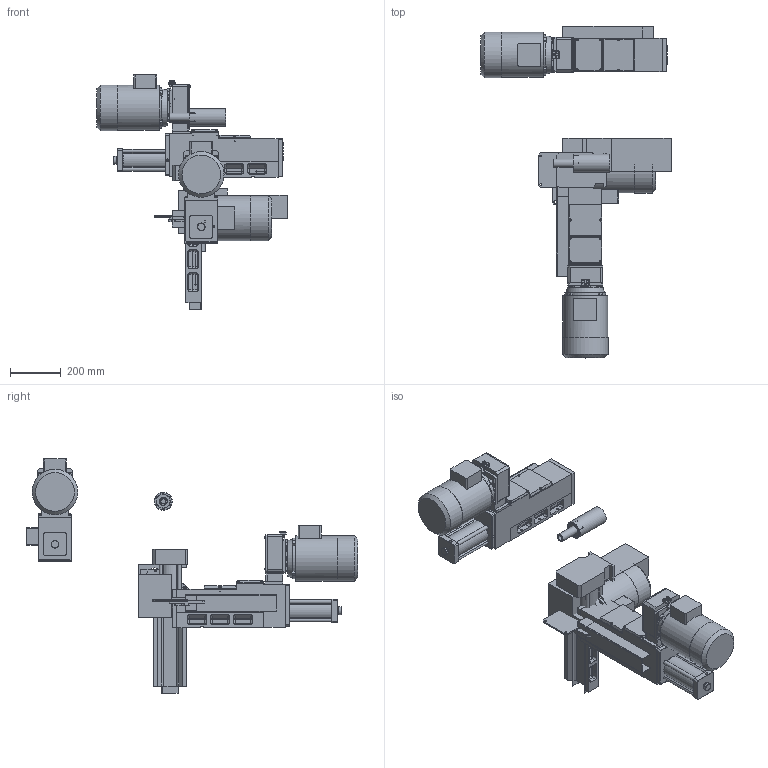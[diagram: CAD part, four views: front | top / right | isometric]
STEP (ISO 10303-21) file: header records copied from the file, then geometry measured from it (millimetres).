
FILE_DESCRIPTION( ( 'STEP AP203' ), '1' );
FILE_NAME( 'C:/Documents and Settings/Saverio/Desktop/disegni ironcad/unità serie 2/F218 (ex F222)/F 218_A05_P.stp', '2013-12-10T17:19:23', ( ' ' ), ( ' ' ), 'XStep 1.0', ' ', ' ' );
FILE_SCHEMA( ( 'CONFIG_CONTROL_DESIGN' ) );
Length unit declared in the file: metre
Products named in the file (40): Assem1; Assem2; Assem3; 1; 2; 3; 4; 5; 6; 7; 8; 9; 10; 11; 12; 13; 14; 15; 16; 17; 18; 19; 20; 21; 22; 23; 24; 25; 26; 27; 28; 29; 30; 31; 32; 33; 34; 35; 36; 37
Bounding box: 746.57 x 1302.73 x 919.21 mm (x, y, z)
Volume: 48344699.6 mm3; surface area: 4346423 mm2
Topology: 111 solids, 111 shells, 2916 faces, 6747 edges, 4065 vertices
Faces by surface type: plane 1581, cylinder 777, cone 360, bspline 108, sphere 60, torus 30
Full cylindrical faces by diameter (mm): 5 x42, 5.5 x21, 6 x6, 6.5 x18, 6.637 x15, 6.647 x12, 8.385 x3, 8.5 x36, 8.75 x18, 10.25 x6, 18 x3, 20 x3, 24 x3, 27.5 x3, 30 x3, 31.2 x3, 32 x6, 52 x3, 53 x3, 54 x6, 70 x6, 76 x3, 80 x9, 95 x3, 177.21 x3, 179 x3
Entity records: 29767 total; most frequent: CARTESIAN_POINT 7285, DIRECTION 4313, ORIENTED_EDGE 3940, EDGE_CURVE 1970, AXIS2_PLACEMENT_3D 1572, VERTEX_POINT 1310, EDGE_LOOP 1254, LINE 1169
